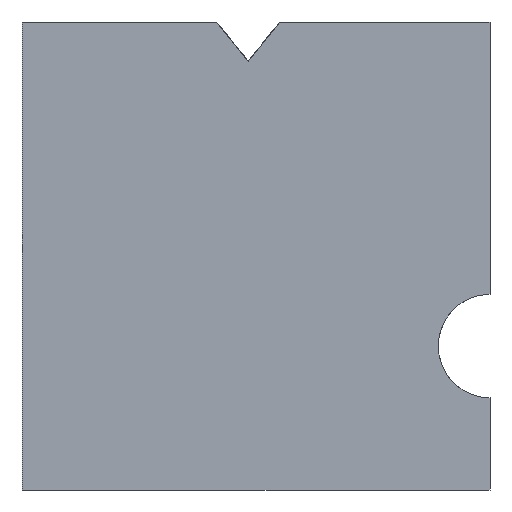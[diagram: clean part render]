
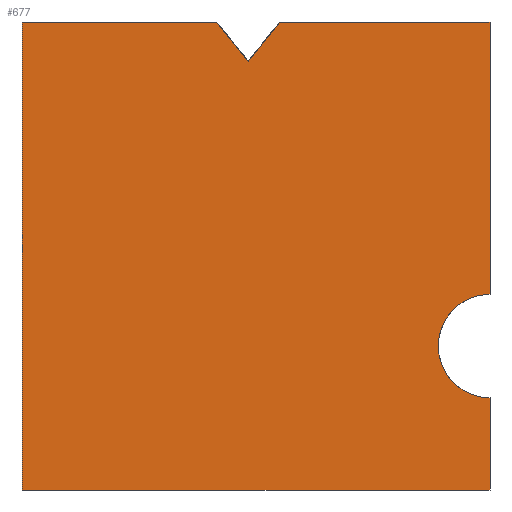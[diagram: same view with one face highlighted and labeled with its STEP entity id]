
A CAD part, left-side view. The second image highlights one B-rep face of the part: STEP entity #677.
In plain terms, the highlighted planar face has unit normal (-1, 0, 0).
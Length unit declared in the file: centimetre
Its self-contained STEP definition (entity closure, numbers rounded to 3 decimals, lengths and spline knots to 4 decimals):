
#22 = EDGE_CURVE ( 'NONE', #284, #733, #509, .T. ) ;
#33 = EDGE_CURVE ( 'NONE', #1304, #1243, #1130, .T. ) ;
#42 = DIRECTION ( 'NONE',  ( 0., -1., 0. ) ) ;
#70 = CARTESIAN_POINT ( 'NONE',  ( 0., 584.0795, 1000. ) ) ;
#101 = LINE ( 'NONE', #331, #431 ) ;
#104 = ORIENTED_EDGE ( 'NONE', *, *, #494, .T. ) ;
#132 = VERTEX_POINT ( 'NONE', #417 ) ;
#168 = DIRECTION ( 'NONE',  ( 0., 0., -1. ) ) ;
#175 = CARTESIAN_POINT ( 'NONE',  ( 0., 1000., 1000. ) ) ;
#191 = ORIENTED_EDGE ( 'NONE', *, *, #774, .F. ) ;
#197 = EDGE_LOOP ( 'NONE', ( #693, #191, #259, #928, #1193, #104, #657, #734, #325 ) ) ;
#210 = DIRECTION ( 'NONE',  ( 0., -0.627, 0.779 ) ) ;
#216 = DIRECTION ( 'NONE',  ( 0., 0., -1. ) ) ;
#240 = CARTESIAN_POINT ( 'NONE',  ( 0., 0., 196.9859 ) ) ;
#259 = ORIENTED_EDGE ( 'NONE', *, *, #271, .F. ) ;
#271 = EDGE_CURVE ( 'NONE', #1243, #359, #310, .T. ) ;
#284 = VERTEX_POINT ( 'NONE', #240 ) ;
#310 = LINE ( 'NONE', #419, #942 ) ;
#317 = DIRECTION ( 'NONE',  ( 0., -0.627, -0.779 ) ) ;
#325 = ORIENTED_EDGE ( 'NONE', *, *, #778, .F. ) ;
#326 = CARTESIAN_POINT ( 'NONE',  ( 0., 1000., 1000. ) ) ;
#331 = CARTESIAN_POINT ( 'NONE',  ( 0., 449.2918, 1000. ) ) ;
#359 = VERTEX_POINT ( 'NONE', #439 ) ;
#405 = VECTOR ( 'NONE', #1276, 100. ) ;
#417 = CARTESIAN_POINT ( 'NONE',  ( 0., 1000., 0. ) ) ;
#419 = CARTESIAN_POINT ( 'NONE',  ( 0., 516.6856, 916.3122 ) ) ;
#431 = VECTOR ( 'NONE', #210, 100. ) ;
#433 = VECTOR ( 'NONE', #1226, 100. ) ;
#439 = CARTESIAN_POINT ( 'NONE',  ( 0., 516.6856, 916.3122 ) ) ;
#452 = CARTESIAN_POINT ( 'NONE',  ( 0., 0., 1000. ) ) ;
#471 = PLANE ( 'NONE',  #532 ) ;
#480 = CARTESIAN_POINT ( 'NONE',  ( 0., 0., 0. ) ) ;
#494 = EDGE_CURVE ( 'NONE', #132, #740, #946, .T. ) ;
#507 = VECTOR ( 'NONE', #42, 100. ) ;
#509 = CIRCLE ( 'NONE', #560, 110.5675 ) ;
#525 = DIRECTION ( 'NONE',  ( 1., 0., 0. ) ) ;
#532 = AXIS2_PLACEMENT_3D ( 'NONE', #1210, #878, #574 ) ;
#538 = CARTESIAN_POINT ( 'NONE',  ( 0., 449.2918, 1000. ) ) ;
#560 = AXIS2_PLACEMENT_3D ( 'NONE', #924, #525, #1115 ) ;
#574 = DIRECTION ( 'NONE',  ( 0., 0., -1. ) ) ;
#580 = EDGE_CURVE ( 'NONE', #584, #1213, #636, .T. ) ;
#584 = VERTEX_POINT ( 'NONE', #538 ) ;
#616 = LINE ( 'NONE', #1250, #1192 ) ;
#636 = LINE ( 'NONE', #1046, #405 ) ;
#657 = ORIENTED_EDGE ( 'NONE', *, *, #925, .F. ) ;
#677 = ADVANCED_FACE ( 'NONE', ( #1199 ), #471, .F. ) ;
#693 = ORIENTED_EDGE ( 'NONE', *, *, #580, .F. ) ;
#733 = VERTEX_POINT ( 'NONE', #793 ) ;
#734 = ORIENTED_EDGE ( 'NONE', *, *, #22, .T. ) ;
#740 = VERTEX_POINT ( 'NONE', #480 ) ;
#774 = EDGE_CURVE ( 'NONE', #359, #584, #101, .T. ) ;
#778 = EDGE_CURVE ( 'NONE', #1213, #733, #616, .T. ) ;
#793 = CARTESIAN_POINT ( 'NONE',  ( 0., 0., 418.1209 ) ) ;
#804 = VECTOR ( 'NONE', #216, 100. ) ;
#810 = LINE ( 'NONE', #1117, #804 ) ;
#873 = EDGE_CURVE ( 'NONE', #1304, #132, #810, .T. ) ;
#878 = DIRECTION ( 'NONE',  ( 1., 0., 0. ) ) ;
#924 = CARTESIAN_POINT ( 'NONE',  ( 0., 0., 307.5534 ) ) ;
#925 = EDGE_CURVE ( 'NONE', #284, #740, #1168, .T. ) ;
#928 = ORIENTED_EDGE ( 'NONE', *, *, #33, .F. ) ;
#942 = VECTOR ( 'NONE', #317, 100. ) ;
#945 = CARTESIAN_POINT ( 'NONE',  ( 0., 0., 1000. ) ) ;
#946 = LINE ( 'NONE', #954, #507 ) ;
#954 = CARTESIAN_POINT ( 'NONE',  ( 0., 1000., 0. ) ) ;
#998 = VECTOR ( 'NONE', #168, 100. ) ;
#1046 = CARTESIAN_POINT ( 'NONE',  ( 0., 1000., 1000. ) ) ;
#1115 = DIRECTION ( 'NONE',  ( 0., 0., -1. ) ) ;
#1117 = CARTESIAN_POINT ( 'NONE',  ( 0., 1000., 1000. ) ) ;
#1130 = LINE ( 'NONE', #326, #433 ) ;
#1168 = LINE ( 'NONE', #452, #998 ) ;
#1192 = VECTOR ( 'NONE', #1222, 100. ) ;
#1193 = ORIENTED_EDGE ( 'NONE', *, *, #873, .T. ) ;
#1199 = FACE_OUTER_BOUND ( 'NONE', #197, .T. ) ;
#1210 = CARTESIAN_POINT ( 'NONE',  ( 0., 1000., 1000. ) ) ;
#1213 = VERTEX_POINT ( 'NONE', #945 ) ;
#1222 = DIRECTION ( 'NONE',  ( 0., 0., -1. ) ) ;
#1226 = DIRECTION ( 'NONE',  ( 0., -1., 0. ) ) ;
#1243 = VERTEX_POINT ( 'NONE', #70 ) ;
#1250 = CARTESIAN_POINT ( 'NONE',  ( 0., 0., 1000. ) ) ;
#1276 = DIRECTION ( 'NONE',  ( 0., -1., 0. ) ) ;
#1304 = VERTEX_POINT ( 'NONE', #175 ) ;
